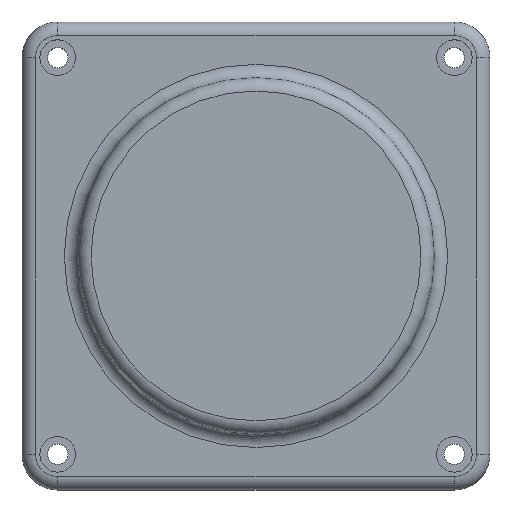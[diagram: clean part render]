
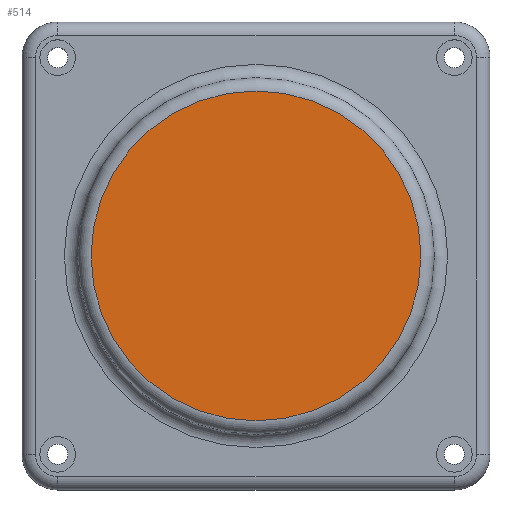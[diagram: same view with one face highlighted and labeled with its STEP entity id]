
A CAD part, top view. The second image highlights one B-rep face of the part: STEP entity #514.
In plain terms, the highlighted planar face has unit normal (0, 0, 1).
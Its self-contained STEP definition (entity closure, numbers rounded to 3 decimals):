
#35=PLANE('',#609);
#138=FACE_OUTER_BOUND('',#180,.T.);
#180=EDGE_LOOP('',(#452));
#228=CIRCLE('',#608,37.);
#270=VERTEX_POINT('',#922);
#335=EDGE_CURVE('',#270,#270,#228,.T.);
#452=ORIENTED_EDGE('',*,*,#335,.F.);
#514=ADVANCED_FACE('',(#138),#35,.F.);
#608=AXIS2_PLACEMENT_3D('',#924,#772,#773);
#609=AXIS2_PLACEMENT_3D('',#925,#774,#775);
#772=DIRECTION('center_axis',(0.,0.,-1.));
#773=DIRECTION('ref_axis',(-1.,0.,0.));
#774=DIRECTION('center_axis',(0.,0.,-1.));
#775=DIRECTION('ref_axis',(-1.,0.,0.));
#922=CARTESIAN_POINT('',(37.,0.,13.));
#924=CARTESIAN_POINT('Origin',(0.,0.,13.));
#925=CARTESIAN_POINT('Origin',(0.,0.,13.));
